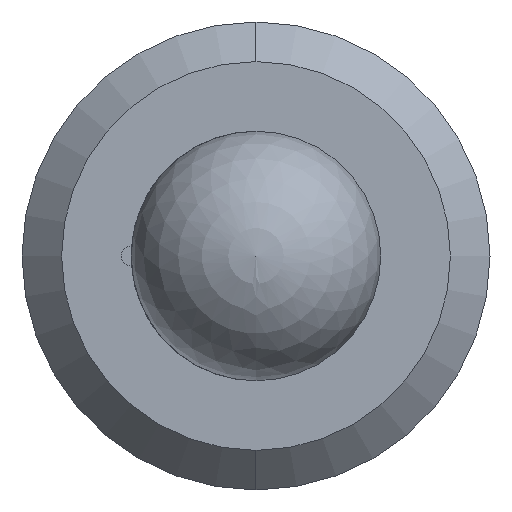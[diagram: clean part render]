
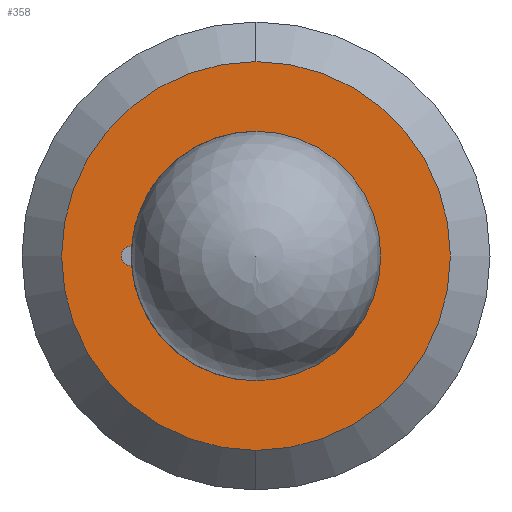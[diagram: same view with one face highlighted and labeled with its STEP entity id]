
A CAD part, left-side view. The second image highlights one B-rep face of the part: STEP entity #358.
In plain terms, the highlighted planar face has unit normal (-1, 0, 0).
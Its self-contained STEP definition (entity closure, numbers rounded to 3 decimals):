
#13 = DIRECTION ( 'NONE',  ( 0., 0., 1. ) ) ;
#19 = CARTESIAN_POINT ( 'NONE',  ( 0., 0.8, 0. ) ) ;
#24 = EDGE_LOOP ( 'NONE', ( #201, #235, #486, #389, #629, #609 ) ) ;
#27 = AXIS2_PLACEMENT_3D ( 'NONE', #542, #210, #598 ) ;
#37 = AXIS2_PLACEMENT_3D ( 'NONE', #540, #207, #596 ) ;
#39 = VERTEX_POINT ( 'NONE', #266 ) ;
#68 = EDGE_CURVE ( 'NONE', #696, #712, #742, .T. ) ;
#84 = DIRECTION ( 'NONE',  ( 0., 0., 1. ) ) ;
#92 = AXIS2_PLACEMENT_3D ( 'NONE', #19, #428, #84 ) ;
#96 = ORIENTED_EDGE ( 'NONE', *, *, #563, .T. ) ;
#101 = DIRECTION ( 'NONE',  ( 1., 0., 0. ) ) ;
#131 = CIRCLE ( 'NONE', #178, 0.064 ) ;
#138 = AXIS2_PLACEMENT_3D ( 'NONE', #246, #633, #299 ) ;
#148 = CARTESIAN_POINT ( 'NONE',  ( 0., 0., -1.246 ) ) ;
#175 = AXIS2_PLACEMENT_3D ( 'NONE', #678, #343, #744 ) ;
#178 = AXIS2_PLACEMENT_3D ( 'NONE', #615, #286, #676 ) ;
#197 = AXIS2_PLACEMENT_3D ( 'NONE', #702, #364, #13 ) ;
#201 = ORIENTED_EDGE ( 'NONE', *, *, #695, .F. ) ;
#207 = DIRECTION ( 'NONE',  ( -1., 0., 0. ) ) ;
#210 = DIRECTION ( 'NONE',  ( -1., 0., 0. ) ) ;
#221 = VERTEX_POINT ( 'NONE', #308 ) ;
#229 = DIRECTION ( 'NONE',  ( -1., 0., 0. ) ) ;
#235 = ORIENTED_EDGE ( 'NONE', *, *, #708, .F. ) ;
#246 = CARTESIAN_POINT ( 'NONE',  ( 0., 0., 0. ) ) ;
#266 = CARTESIAN_POINT ( 'NONE',  ( 0., 0.8, 0.064 ) ) ;
#274 = CIRCLE ( 'NONE', #37, 0.8 ) ;
#276 = PLANE ( 'NONE',  #289 ) ;
#282 = FACE_BOUND ( 'NONE', #24, .T. ) ;
#286 = DIRECTION ( 'NONE',  ( -1., 0., 0. ) ) ;
#289 = AXIS2_PLACEMENT_3D ( 'NONE', #665, #101, #729 ) ;
#299 = DIRECTION ( 'NONE',  ( 0., 0., -1. ) ) ;
#308 = CARTESIAN_POINT ( 'NONE',  ( 0., 0.797, -0.063 ) ) ;
#321 = CARTESIAN_POINT ( 'NONE',  ( 0., 0., 0.8 ) ) ;
#340 = VERTEX_POINT ( 'NONE', #438 ) ;
#343 = DIRECTION ( 'NONE',  ( -1., 0., 0. ) ) ;
#358 = ADVANCED_FACE ( 'NONE', ( #282, #429 ), #276, .F. ) ;
#364 = DIRECTION ( 'NONE',  ( -1., 0., 0. ) ) ;
#389 = ORIENTED_EDGE ( 'NONE', *, *, #679, .F. ) ;
#394 = ORIENTED_EDGE ( 'NONE', *, *, #605, .T. ) ;
#428 = DIRECTION ( 'NONE',  ( -1., 0., 0. ) ) ;
#429 = FACE_OUTER_BOUND ( 'NONE', #601, .T. ) ;
#438 = CARTESIAN_POINT ( 'NONE',  ( 0., 0., 1.246 ) ) ;
#453 = AXIS2_PLACEMENT_3D ( 'NONE', #557, #229, #613 ) ;
#469 = CIRCLE ( 'NONE', #92, 0.064 ) ;
#481 = CARTESIAN_POINT ( 'NONE',  ( 0., 0., -0.8 ) ) ;
#486 = ORIENTED_EDGE ( 'NONE', *, *, #531, .F. ) ;
#512 = EDGE_CURVE ( 'NONE', #712, #617, #582, .T. ) ;
#531 = EDGE_CURVE ( 'NONE', #39, #568, #131, .T. ) ;
#540 = CARTESIAN_POINT ( 'NONE',  ( 0., 0., 0. ) ) ;
#542 = CARTESIAN_POINT ( 'NONE',  ( 0., 0.8, 0. ) ) ;
#552 = CARTESIAN_POINT ( 'NONE',  ( 0., 0.797, 0.063 ) ) ;
#557 = CARTESIAN_POINT ( 'NONE',  ( 0., 0., 0. ) ) ;
#562 = CARTESIAN_POINT ( 'NONE',  ( 0., 0.8, -0.064 ) ) ;
#563 = EDGE_CURVE ( 'NONE', #340, #703, #701, .T. ) ;
#568 = VERTEX_POINT ( 'NONE', #562 ) ;
#582 = CIRCLE ( 'NONE', #197, 0.8 ) ;
#596 = DIRECTION ( 'NONE',  ( 0., 0., 1. ) ) ;
#598 = DIRECTION ( 'NONE',  ( 0., 0., 1. ) ) ;
#601 = EDGE_LOOP ( 'NONE', ( #394, #96 ) ) ;
#605 = EDGE_CURVE ( 'NONE', #703, #340, #734, .T. ) ;
#609 = ORIENTED_EDGE ( 'NONE', *, *, #68, .F. ) ;
#613 = DIRECTION ( 'NONE',  ( 0., 0., 1. ) ) ;
#615 = CARTESIAN_POINT ( 'NONE',  ( 0., 0.8, 0. ) ) ;
#617 = VERTEX_POINT ( 'NONE', #552 ) ;
#629 = ORIENTED_EDGE ( 'NONE', *, *, #512, .F. ) ;
#633 = DIRECTION ( 'NONE',  ( -1., 0., 0. ) ) ;
#665 = CARTESIAN_POINT ( 'NONE',  ( 0., 0., 0. ) ) ;
#676 = DIRECTION ( 'NONE',  ( 0., 0., 1. ) ) ;
#678 = CARTESIAN_POINT ( 'NONE',  ( 0., 0., 0. ) ) ;
#679 = EDGE_CURVE ( 'NONE', #617, #39, #469, .T. ) ;
#695 = EDGE_CURVE ( 'NONE', #221, #696, #274, .T. ) ;
#696 = VERTEX_POINT ( 'NONE', #481 ) ;
#701 = CIRCLE ( 'NONE', #175, 1.246 ) ;
#702 = CARTESIAN_POINT ( 'NONE',  ( 0., 0., 0. ) ) ;
#703 = VERTEX_POINT ( 'NONE', #148 ) ;
#707 = CIRCLE ( 'NONE', #27, 0.064 ) ;
#708 = EDGE_CURVE ( 'NONE', #568, #221, #707, .T. ) ;
#712 = VERTEX_POINT ( 'NONE', #321 ) ;
#729 = DIRECTION ( 'NONE',  ( 0., 0., -1. ) ) ;
#734 = CIRCLE ( 'NONE', #138, 1.246 ) ;
#742 = CIRCLE ( 'NONE', #453, 0.8 ) ;
#744 = DIRECTION ( 'NONE',  ( 0., 0., -1. ) ) ;
